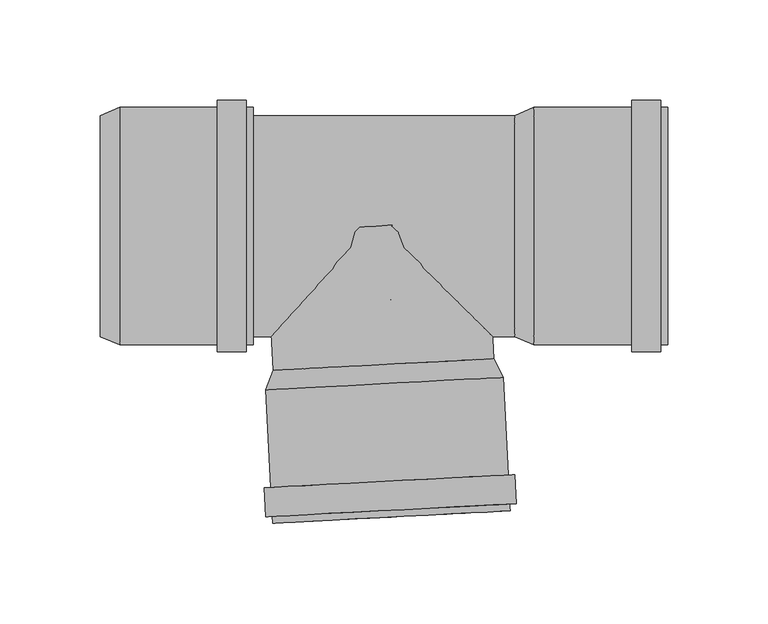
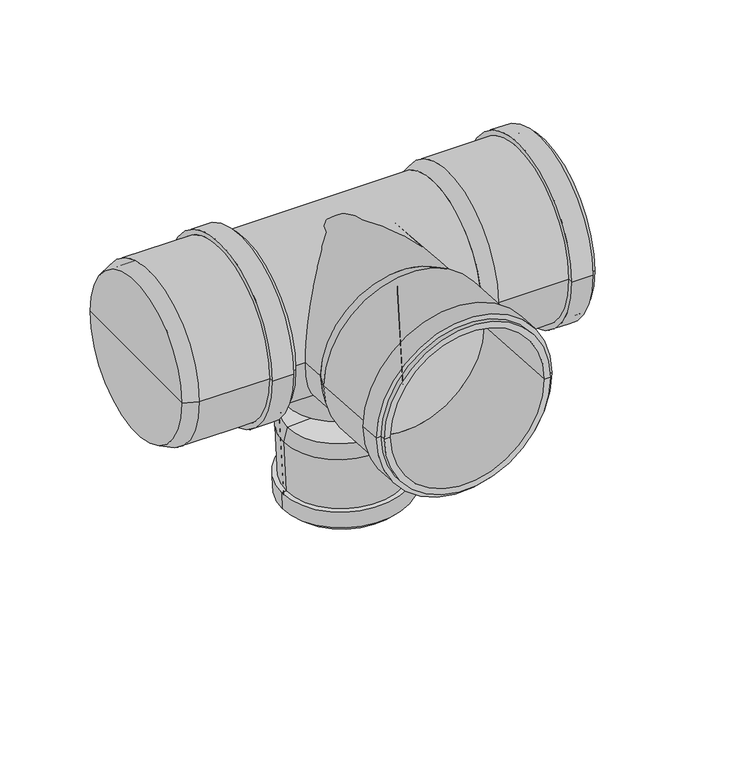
"""IFC4 building model written with IfcOpenShell, lengths in millimetres: pipe fitting geometry, pf_HTEPKp : pf_HTEPKp."""

from ifc_helpers import new_model, si_unit, point, frame, origin, origin_2d, place, context, project, spatial, polyline, circle_curve, trimmed, segment, composite_curve, outline, extrude, source, transform, mapped, element, save
from ifc_brep_helpers import plane_surface, cylinder_surface, revolved_surface, advanced_brep


def pipe_fitting_3d81adcc(model_context):
    return source(origin(), model_context, "Body", "SolidModel", [
        advanced_brep(
        [(-32.9712929, 0.0, -87.3948522), (41.9259223, 0.0, -83.4696554), (45.5188654, 0.0, -92.7943946), (-35.5698528, 0.0, -97.0440742), (4.4773147, 0.0, -85.4322538), (-32.8745511, 0.0, -148.4734952), (48.2141671, 0.0, -144.2238156), (45.1184156, 0.0, -144.3860571), (-29.7787995, 0.0, -148.3112538), (-33.0524933, 0.0, -145.0781548), (48.0362249, 0.0, -140.8284752), (-36.4478337, 0.0, -145.2560971), (51.4315653, 0.0, -140.6505329), (-37.0549308, 0.0, -133.6719945), (50.8244682, 0.0, -129.0664303), (-33.6595904, 0.0, -133.4940522), (47.4291278, 0.0, -129.2443726), (-32.4741013, 0.0, -96.8818327), (42.4231138, 0.0, -92.956636), (4.9745063, 0.0, -94.9192344)],
        [
            (0, 1, circle_curve(frame((4.4773147, 0.0, -85.4322538), z_axis=(0.05233595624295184, 0.0, -0.9986295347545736), x_axis=(0.9986295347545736, 0.0, 0.05233595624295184)), 37.5)),
            (1, 2),
            (2, 3, circle_curve(frame((4.9745063, 0.0, -94.9192344), z_axis=(-0.05233595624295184, 0.0, 0.9986295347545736), x_axis=(0.9986295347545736, 0.0, 0.05233595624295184)), 40.6)),
            (3, 0),
            (1, 0, circle_curve(frame((4.4773147, 0.0, -85.4322538), z_axis=(0.05233595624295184, 0.0, -0.9986295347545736), x_axis=(0.9986295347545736, 0.0, 0.05233595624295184)), 37.5)),
            (3, 2, circle_curve(frame((4.9745063, 0.0, -94.9192344), z_axis=(-0.05233595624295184, 0.0, 0.9986295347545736), x_axis=(0.9986295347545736, 0.0, 0.05233595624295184)), 40.6)),
            (4, 1),
            (0, 4),
            (5, 6, circle_curve(frame((7.669808, 0.0, -146.3486554), z_axis=(0.05233595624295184, 0.0, -0.9986295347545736), x_axis=(0.9986295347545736, 0.0, 0.05233595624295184)), 40.6)),
            (6, 7),
            (7, 8, circle_curve(frame((7.669808, 0.0, -146.3486554), z_axis=(-0.05233595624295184, 0.0, 0.9986295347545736), x_axis=(0.9986295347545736, 0.0, 0.05233595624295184)), 37.5)),
            (8, 5),
            (6, 5, circle_curve(frame((7.669808, 0.0, -146.3486554), z_axis=(0.05233595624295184, 0.0, -0.9986295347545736), x_axis=(0.9986295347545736, 0.0, 0.05233595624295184)), 40.6)),
            (8, 7, circle_curve(frame((7.669808, 0.0, -146.3486554), z_axis=(-0.05233595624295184, 0.0, 0.9986295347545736), x_axis=(0.9986295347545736, 0.0, 0.05233595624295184)), 37.5)),
            (9, 10, circle_curve(frame((7.4918658, 0.0, -142.953315), z_axis=(0.05233595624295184, 0.0, -0.9986295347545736), x_axis=(0.9986295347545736, 0.0, 0.05233595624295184)), 40.6)),
            (10, 6),
            (5, 9),
            (10, 9, circle_curve(frame((7.4918658, 0.0, -142.953315), z_axis=(0.05233595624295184, 0.0, -0.9986295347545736), x_axis=(0.9986295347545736, 0.0, 0.05233595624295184)), 40.6)),
            (11, 12, circle_curve(frame((7.4918658, 0.0, -142.953315), z_axis=(0.05233595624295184, 0.0, -0.9986295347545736), x_axis=(0.9986295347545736, 0.0, 0.05233595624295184)), 44.0)),
            (12, 10),
            (9, 11),
            (12, 11, circle_curve(frame((7.4918658, 0.0, -142.953315), z_axis=(0.05233595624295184, 0.0, -0.9986295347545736), x_axis=(0.9986295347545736, 0.0, 0.05233595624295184)), 44.0)),
            (13, 14, circle_curve(frame((6.8847687, 0.0, -131.3692124), z_axis=(0.05233595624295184, 0.0, -0.9986295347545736), x_axis=(0.9986295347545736, 0.0, 0.05233595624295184)), 44.0)),
            (14, 12),
            (11, 13),
            (14, 13, circle_curve(frame((6.8847687, 0.0, -131.3692124), z_axis=(0.05233595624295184, 0.0, -0.9986295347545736), x_axis=(0.9986295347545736, 0.0, 0.05233595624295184)), 44.0)),
            (15, 16, circle_curve(frame((6.8847687, 0.0, -131.3692124), z_axis=(0.05233595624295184, 0.0, -0.9986295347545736), x_axis=(0.9986295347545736, 0.0, 0.05233595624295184)), 40.6)),
            (16, 14),
            (13, 15),
            (16, 15, circle_curve(frame((6.8847687, 0.0, -131.3692124), z_axis=(0.05233595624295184, 0.0, -0.9986295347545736), x_axis=(0.9986295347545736, 0.0, 0.05233595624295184)), 40.6)),
            (2, 16),
            (15, 3),
            (17, 18, circle_curve(frame((4.9745063, 0.0, -94.9192344), z_axis=(0.05233595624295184, 0.0, -0.9986295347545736), x_axis=(0.9986295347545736, 0.0, 0.05233595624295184)), 37.5)),
            (18, 19),
            (19, 17),
            (18, 17, circle_curve(frame((4.9745063, 0.0, -94.9192344), z_axis=(0.05233595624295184, 0.0, -0.9986295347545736), x_axis=(0.9986295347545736, 0.0, 0.05233595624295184)), 37.5)),
            (7, 18),
            (17, 8),
        ],
        [
            revolved_surface(polyline([(45.5188654, 0.0, -92.7943946), (41.9259223, 0.0, -83.4696554)]), (4.4773147, 0.0, -85.4322538), (-0.05233595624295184, 0.0, 0.9986295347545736)),
            plane_surface(frame((4.4773147, 0.0, -85.4322538), z_axis=(-0.05233595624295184, 0.0, 0.9986295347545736), x_axis=(0.9986295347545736, 0.0, 0.05233595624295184))),
            plane_surface(frame((7.669808, 0.0, -146.3486554), z_axis=(0.05233595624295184, 0.0, -0.9986295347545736), x_axis=(0.9986295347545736, 0.0, 0.05233595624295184))),
            cylinder_surface(frame((4.4773147, 0.0, -85.4322538), z_axis=(-0.05233595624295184, 0.0, 0.9986295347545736), x_axis=(0.9986295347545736, 0.0, 0.05233595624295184)), 40.6),
            plane_surface(frame((7.4918658, 0.0, -142.953315), z_axis=(0.05233595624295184, 0.0, -0.9986295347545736), x_axis=(0.9986295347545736, 0.0, 0.05233595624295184))),
            cylinder_surface(frame((4.4773147, 0.0, -85.4322538), z_axis=(-0.05233595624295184, 0.0, 0.9986295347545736), x_axis=(0.9986295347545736, 0.0, 0.05233595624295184)), 44.0),
            plane_surface(frame((6.8847687, 0.0, -131.3692124), z_axis=(-0.05233595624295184, 0.0, 0.9986295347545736), x_axis=(0.9986295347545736, 0.0, 0.05233595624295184))),
            plane_surface(frame((4.9745063, 0.0, -94.9192344), z_axis=(0.05233595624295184, 0.0, -0.9986295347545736), x_axis=(0.9986295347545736, 0.0, 0.05233595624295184))),
            revolved_surface(polyline([(42.42311383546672, 0.0, -92.9566359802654), (45.11841558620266, 0.0, -144.3860571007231)]), (4.4773147, 0.0, -85.4322538), (-0.05233595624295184, 0.0, 0.9986295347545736)),
        ],
        [
            (0, [[1, 2, 3, 4]]),
            (0, [[5, -4, 6, -2]]),
            (1, [[7, -1, 8]]),
            (1, [[-8, -5, -7]]),
            (2, [[9, 10, 11, 12]]),
            (2, [[13, -12, 14, -10]]),
            (3, [[15, 16, -9, 17]]),
            (3, [[18, -17, -13, -16]]),
            (4, [[19, 20, -15, 21]]),
            (4, [[22, -21, -18, -20]]),
            (5, [[23, 24, -19, 25]]),
            (5, [[26, -25, -22, -24]]),
            (6, [[27, 28, -23, 29]]),
            (6, [[30, -29, -26, -28]]),
            (3, [[-3, 31, -27, 32]]),
            (3, [[-6, -32, -30, -31]]),
            (7, [[33, 34, 35]]),
            (7, [[36, -35, -34]]),
            (8, [[-11, 37, -33, 38]]),
            (8, [[-14, -38, -36, -37]]),
        ],
    ),
        advanced_brep(
        [(-51.3134434, -71.7839155, 0.0), (58.5358054, -66.0269603, 0.0), (63.1273781, -75.2993635, 0.0), (-54.9106329, -81.4854735, 0.0), (3.611181, -68.9054379, 0.0), (-51.4302918, -147.8943376, 0.0), (66.6077192, -141.7082275, 0.0), (62.5133381, -141.9228049, 0.0), (-47.3359108, -147.6797601, 0.0), (-51.6082341, -144.4989971, 0.0), (66.4297769, -138.3128871, 0.0), (-55.0035745, -144.6769394, 0.0), (69.8251173, -138.1349449, 0.0), (-55.7624459, -130.1968111, 0.0), (69.066246, -123.6548166, 0.0), (-52.3671055, -130.0188689, 0.0), (65.6709055, -123.8327589, 0.0), (-50.8162518, -81.2708961, 0.0), (59.032997, -75.5139409, 0.0), (4.1083726, -78.3924185, 0.0)],
        [
            (0, 1, circle_curve(frame((3.611181, -68.9054379, 0.0), z_axis=(0.052335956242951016, -0.9986295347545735, 0.0), x_axis=(0.9986295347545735, 0.052335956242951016, 0.0)), 55.0)),
            (1, 2),
            (2, 3, circle_curve(frame((4.1083726, -78.3924185, 0.0), z_axis=(-0.052335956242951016, 0.9986295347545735, 0.0), x_axis=(0.9986295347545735, 0.052335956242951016, 0.0)), 59.1)),
            (3, 0),
            (1, 0, circle_curve(frame((3.611181, -68.9054379, 0.0), z_axis=(0.052335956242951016, -0.9986295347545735, 0.0), x_axis=(0.9986295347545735, 0.052335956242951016, 0.0)), 55.0)),
            (3, 2, circle_curve(frame((4.1083726, -78.3924185, 0.0), z_axis=(-0.052335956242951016, 0.9986295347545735, 0.0), x_axis=(0.9986295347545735, 0.052335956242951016, 0.0)), 59.1)),
            (4, 1),
            (0, 4),
            (5, 6, circle_curve(frame((7.5887137, -144.8012825, 0.0), z_axis=(0.052335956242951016, -0.9986295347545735, 0.0), x_axis=(0.9986295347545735, 0.052335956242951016, 0.0)), 59.1)),
            (6, 7),
            (7, 8, circle_curve(frame((7.5887137, -144.8012825, 0.0), z_axis=(-0.052335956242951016, 0.9986295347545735, 0.0), x_axis=(0.9986295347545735, 0.052335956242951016, 0.0)), 55.0)),
            (8, 5),
            (6, 5, circle_curve(frame((7.5887137, -144.8012825, 0.0), z_axis=(0.052335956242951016, -0.9986295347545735, 0.0), x_axis=(0.9986295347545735, 0.052335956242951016, 0.0)), 59.1)),
            (8, 7, circle_curve(frame((7.5887137, -144.8012825, 0.0), z_axis=(-0.052335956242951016, 0.9986295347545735, 0.0), x_axis=(0.9986295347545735, 0.052335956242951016, 0.0)), 55.0)),
            (9, 10, circle_curve(frame((7.4107714, -141.4059421, 0.0), z_axis=(0.052335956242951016, -0.9986295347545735, 0.0), x_axis=(0.9986295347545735, 0.052335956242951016, 0.0)), 59.1)),
            (10, 6),
            (5, 9),
            (10, 9, circle_curve(frame((7.4107714, -141.4059421, 0.0), z_axis=(0.052335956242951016, -0.9986295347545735, 0.0), x_axis=(0.9986295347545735, 0.052335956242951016, 0.0)), 59.1)),
            (11, 12, circle_curve(frame((7.4107714, -141.4059421, 0.0), z_axis=(0.052335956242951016, -0.9986295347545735, 0.0), x_axis=(0.9986295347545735, 0.052335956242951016, 0.0)), 62.5)),
            (12, 10),
            (9, 11),
            (12, 11, circle_curve(frame((7.4107714, -141.4059421, 0.0), z_axis=(0.052335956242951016, -0.9986295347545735, 0.0), x_axis=(0.9986295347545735, 0.052335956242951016, 0.0)), 62.5)),
            (13, 14, circle_curve(frame((6.6519, -126.9258139, 0.0), z_axis=(0.052335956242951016, -0.9986295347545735, 0.0), x_axis=(0.9986295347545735, 0.052335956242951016, 0.0)), 62.5)),
            (14, 12),
            (11, 13),
            (14, 13, circle_curve(frame((6.6519, -126.9258139, 0.0), z_axis=(0.052335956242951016, -0.9986295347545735, 0.0), x_axis=(0.9986295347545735, 0.052335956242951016, 0.0)), 62.5)),
            (15, 16, circle_curve(frame((6.6519, -126.9258139, 0.0), z_axis=(0.052335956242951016, -0.9986295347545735, 0.0), x_axis=(0.9986295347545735, 0.052335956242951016, 0.0)), 59.1)),
            (16, 14),
            (13, 15),
            (16, 15, circle_curve(frame((6.6519, -126.9258139, 0.0), z_axis=(0.052335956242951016, -0.9986295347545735, 0.0), x_axis=(0.9986295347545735, 0.052335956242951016, 0.0)), 59.1)),
            (2, 16),
            (15, 3),
            (17, 18, circle_curve(frame((4.1083726, -78.3924185, 0.0), z_axis=(0.052335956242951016, -0.9986295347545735, 0.0), x_axis=(0.9986295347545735, 0.052335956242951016, 0.0)), 55.0)),
            (18, 19),
            (19, 17),
            (18, 17, circle_curve(frame((4.1083726, -78.3924185, 0.0), z_axis=(0.052335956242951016, -0.9986295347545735, 0.0), x_axis=(0.9986295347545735, 0.052335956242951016, 0.0)), 55.0)),
            (7, 18),
            (17, 8),
        ],
        [
            revolved_surface(polyline([(63.1273781, -75.2993635, 0.0), (58.5358054, -66.0269603, 0.0)]), (3.611181, -68.9054379, 0.0), (-0.052335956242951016, 0.9986295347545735, 0.0)),
            plane_surface(frame((3.611181, -68.9054379, 0.0), z_axis=(-0.052335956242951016, 0.9986295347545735, 0.0), x_axis=(0.9986295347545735, 0.052335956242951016, 0.0))),
            plane_surface(frame((7.5887137, -144.8012825, 0.0), z_axis=(0.052335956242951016, -0.9986295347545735, 0.0), x_axis=(0.9986295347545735, 0.052335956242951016, 0.0))),
            cylinder_surface(frame((3.611181, -68.9054379, 0.0), z_axis=(-0.052335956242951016, 0.9986295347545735, 0.0), x_axis=(0.9986295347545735, 0.052335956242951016, 0.0)), 59.1),
            plane_surface(frame((7.4107714, -141.4059421, 0.0), z_axis=(0.052335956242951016, -0.9986295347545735, 0.0), x_axis=(0.9986295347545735, 0.052335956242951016, 0.0))),
            cylinder_surface(frame((3.611181, -68.9054379, 0.0), z_axis=(-0.052335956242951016, 0.9986295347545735, 0.0), x_axis=(0.9986295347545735, 0.052335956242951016, 0.0)), 62.5),
            plane_surface(frame((6.6519, -126.9258139, 0.0), z_axis=(-0.052335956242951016, 0.9986295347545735, 0.0), x_axis=(0.9986295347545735, 0.052335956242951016, 0.0))),
            plane_surface(frame((4.1083726, -78.3924185, 0.0), z_axis=(0.052335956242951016, -0.9986295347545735, 0.0), x_axis=(0.9986295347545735, 0.052335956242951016, 0.0))),
            revolved_surface(polyline([(59.03299699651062, -75.51394090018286, 0.0), (62.51333808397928, -141.92280491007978, 0.0)]), (3.611181, -68.9054379, 0.0), (-0.052335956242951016, 0.9986295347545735, 0.0)),
        ],
        [
            (0, [[1, 2, 3, 4]]),
            (0, [[5, -4, 6, -2]]),
            (1, [[7, -1, 8]]),
            (1, [[-8, -5, -7]]),
            (2, [[9, 10, 11, 12]]),
            (2, [[13, -12, 14, -10]]),
            (3, [[15, 16, -9, 17]]),
            (3, [[18, -17, -13, -16]]),
            (4, [[19, 20, -15, 21]]),
            (4, [[22, -21, -18, -20]]),
            (5, [[23, 24, -19, 25]]),
            (5, [[26, -25, -22, -24]]),
            (6, [[27, 28, -23, 29]]),
            (6, [[30, -29, -26, -28]]),
            (3, [[-3, 31, -27, 32]]),
            (3, [[-6, -32, -30, -31]]),
            (7, [[33, 34, 35]]),
            (7, [[36, -35, -34]]),
            (8, [[-11, 37, -33, 38]]),
            (8, [[-14, -38, -36, -37]]),
        ],
    ),
        advanced_brep(
        [(69.0, -55.0, 0.0), (69.0, 55.0, 0.0), (78.5, 59.1, 0.0), (78.5, -59.1, 0.0), (69.0, 0.0, 0.0), (145.0, -59.1, 0.0), (145.0, 59.1, 0.0), (145.0, 55.0, 0.0), (145.0, -55.0, 0.0), (141.6, -59.1, 0.0), (141.6, 59.1, 0.0), (141.6, -62.5, 0.0), (141.6, 62.5, 0.0), (127.1, -62.5, 0.0), (127.1, 62.5, 0.0), (127.1, -59.1, 0.0), (127.1, 59.1, 0.0), (78.5, -55.0, 0.0), (78.5, 55.0, 0.0), (78.5, 0.0, 0.0)],
        [
            (0, 1, circle_curve(frame((69.0, 0.0, 0.0), z_axis=(1.0, 0.0, 0.0), x_axis=(0.0, 1.0, 0.0)), 55.0)),
            (1, 2),
            (2, 3, circle_curve(frame((78.5, 0.0, 0.0), z_axis=(-1.0, 0.0, 0.0), x_axis=(0.0, 1.0, 0.0)), 59.1)),
            (3, 0),
            (1, 0, circle_curve(frame((69.0, 0.0, 0.0), z_axis=(1.0, 0.0, 0.0), x_axis=(0.0, 1.0, 0.0)), 55.0)),
            (3, 2, circle_curve(frame((78.5, 0.0, 0.0), z_axis=(-1.0, 0.0, 0.0), x_axis=(0.0, 1.0, 0.0)), 59.1)),
            (4, 1),
            (0, 4),
            (5, 6, circle_curve(frame((145.0, 0.0, 0.0), z_axis=(1.0, 0.0, 0.0), x_axis=(0.0, 1.0, 0.0)), 59.1)),
            (6, 7),
            (7, 8, circle_curve(frame((145.0, 0.0, 0.0), z_axis=(-1.0, 0.0, 0.0), x_axis=(0.0, 1.0, 0.0)), 55.0)),
            (8, 5),
            (6, 5, circle_curve(frame((145.0, 0.0, 0.0), z_axis=(1.0, 0.0, 0.0), x_axis=(0.0, 1.0, 0.0)), 59.1)),
            (8, 7, circle_curve(frame((145.0, 0.0, 0.0), z_axis=(-1.0, 0.0, 0.0), x_axis=(0.0, 1.0, 0.0)), 55.0)),
            (9, 10, circle_curve(frame((141.6, 0.0, 0.0), z_axis=(1.0, 0.0, 0.0), x_axis=(0.0, 1.0, 0.0)), 59.1)),
            (10, 6),
            (5, 9),
            (10, 9, circle_curve(frame((141.6, 0.0, 0.0), z_axis=(1.0, 0.0, 0.0), x_axis=(0.0, 1.0, 0.0)), 59.1)),
            (11, 12, circle_curve(frame((141.6, 0.0, 0.0), z_axis=(1.0, 0.0, 0.0), x_axis=(0.0, 1.0, 0.0)), 62.5)),
            (12, 10),
            (9, 11),
            (12, 11, circle_curve(frame((141.6, 0.0, 0.0), z_axis=(1.0, 0.0, 0.0), x_axis=(0.0, 1.0, 0.0)), 62.5)),
            (13, 14, circle_curve(frame((127.1, 0.0, 0.0), z_axis=(1.0, 0.0, 0.0), x_axis=(0.0, 1.0, 0.0)), 62.5)),
            (14, 12),
            (11, 13),
            (14, 13, circle_curve(frame((127.1, 0.0, 0.0), z_axis=(1.0, 0.0, 0.0), x_axis=(0.0, 1.0, 0.0)), 62.5)),
            (15, 16, circle_curve(frame((127.1, 0.0, 0.0), z_axis=(1.0, 0.0, 0.0), x_axis=(0.0, 1.0, 0.0)), 59.1)),
            (16, 14),
            (13, 15),
            (16, 15, circle_curve(frame((127.1, 0.0, 0.0), z_axis=(1.0, 0.0, 0.0), x_axis=(0.0, 1.0, 0.0)), 59.1)),
            (2, 16),
            (15, 3),
            (17, 18, circle_curve(frame((78.5, 0.0, 0.0), z_axis=(1.0, 0.0, 0.0), x_axis=(0.0, 1.0, 0.0)), 55.0)),
            (18, 19),
            (19, 17),
            (18, 17, circle_curve(frame((78.5, 0.0, 0.0), z_axis=(1.0, 0.0, 0.0), x_axis=(0.0, 1.0, 0.0)), 55.0)),
            (7, 18),
            (17, 8),
        ],
        [
            revolved_surface(polyline([(78.5, 59.1, 0.0), (69.0, 55.0, 0.0)]), (69.0, 0.0, 0.0), (-1.0, 0.0, 0.0)),
            plane_surface(frame((69.0, 0.0, 0.0), z_axis=(-1.0, 0.0, 0.0), x_axis=(0.0, 1.0, 0.0))),
            plane_surface(frame((145.0, 0.0, 0.0), z_axis=(1.0, 0.0, 0.0), x_axis=(0.0, 1.0, 0.0))),
            cylinder_surface(frame((69.0, 0.0, 0.0), z_axis=(-1.0, 0.0, 0.0), x_axis=(0.0, 1.0, 0.0)), 59.1),
            plane_surface(frame((141.6, 0.0, 0.0), z_axis=(1.0, 0.0, 0.0), x_axis=(0.0, 1.0, 0.0))),
            cylinder_surface(frame((69.0, 0.0, 0.0), z_axis=(-1.0, 0.0, 0.0), x_axis=(0.0, 1.0, 0.0)), 62.5),
            plane_surface(frame((127.1, 0.0, 0.0), z_axis=(-1.0, 0.0, 0.0), x_axis=(0.0, 1.0, 0.0))),
            plane_surface(frame((78.5, 0.0, 0.0), z_axis=(1.0, 0.0, 0.0), x_axis=(0.0, 1.0, 0.0))),
            revolved_surface(polyline([(78.5, 55.0, 0.0), (145.0, 55.0, 0.0)]), (69.0, 0.0, 0.0), (-1.0, 0.0, 0.0)),
        ],
        [
            (0, [[1, 2, 3, 4]]),
            (0, [[5, -4, 6, -2]]),
            (1, [[7, -1, 8]]),
            (1, [[-8, -5, -7]]),
            (2, [[9, 10, 11, 12]]),
            (2, [[13, -12, 14, -10]]),
            (3, [[15, 16, -9, 17]]),
            (3, [[18, -17, -13, -16]]),
            (4, [[19, 20, -15, 21]]),
            (4, [[22, -21, -18, -20]]),
            (5, [[23, 24, -19, 25]]),
            (5, [[26, -25, -22, -24]]),
            (6, [[27, 28, -23, 29]]),
            (6, [[30, -29, -26, -28]]),
            (3, [[-3, 31, -27, 32]]),
            (3, [[-6, -32, -30, -31]]),
            (7, [[33, 34, 35]]),
            (7, [[36, -35, -34]]),
            (8, [[-11, 37, -33, 38]]),
            (8, [[-14, -38, -36, -37]]),
        ],
    ),
        advanced_brep(
        [(-137.2, -55.0, 0.0), (-137.2, 55.0, 0.0), (-127.7, 59.1, 0.0), (-127.7, -59.1, 0.0), (-137.2, 0.0, 0.0), (-61.2, -59.1, 0.0), (-61.2, 59.1, 0.0), (-61.2, 55.0, 0.0), (-61.2, -55.0, 0.0), (-64.6, -59.1, 0.0), (-64.6, 59.1, 0.0), (-64.6, -62.5, 0.0), (-64.6, 62.5, 0.0), (-79.1, -62.5, 0.0), (-79.1, 62.5, 0.0), (-79.1, -59.1, 0.0), (-79.1, 59.1, 0.0), (-127.7, -55.0, 0.0), (-127.7, 55.0, 0.0), (-127.7, 0.0, 0.0)],
        [
            (0, 1, circle_curve(frame((-137.2, 0.0, 0.0), z_axis=(1.0, 0.0, 0.0), x_axis=(0.0, 1.0, 0.0)), 55.0)),
            (1, 2),
            (2, 3, circle_curve(frame((-127.7, 0.0, 0.0), z_axis=(-1.0, 0.0, 0.0), x_axis=(0.0, 1.0, 0.0)), 59.1)),
            (3, 0),
            (1, 0, circle_curve(frame((-137.2, 0.0, 0.0), z_axis=(1.0, 0.0, 0.0), x_axis=(0.0, 1.0, 0.0)), 55.0)),
            (3, 2, circle_curve(frame((-127.7, 0.0, 0.0), z_axis=(-1.0, 0.0, 0.0), x_axis=(0.0, 1.0, 0.0)), 59.1)),
            (4, 1),
            (0, 4),
            (5, 6, circle_curve(frame((-61.2, 0.0, 0.0), z_axis=(1.0, 0.0, 0.0), x_axis=(0.0, 1.0, 0.0)), 59.1)),
            (6, 7),
            (7, 8, circle_curve(frame((-61.2, 0.0, 0.0), z_axis=(-1.0, 0.0, 0.0), x_axis=(0.0, 1.0, 0.0)), 55.0)),
            (8, 5),
            (6, 5, circle_curve(frame((-61.2, 0.0, 0.0), z_axis=(1.0, 0.0, 0.0), x_axis=(0.0, 1.0, 0.0)), 59.1)),
            (8, 7, circle_curve(frame((-61.2, 0.0, 0.0), z_axis=(-1.0, 0.0, 0.0), x_axis=(0.0, 1.0, 0.0)), 55.0)),
            (9, 10, circle_curve(frame((-64.6, 0.0, 0.0), z_axis=(1.0, 0.0, 0.0), x_axis=(0.0, 1.0, 0.0)), 59.1)),
            (10, 6),
            (5, 9),
            (10, 9, circle_curve(frame((-64.6, 0.0, 0.0), z_axis=(1.0, 0.0, 0.0), x_axis=(0.0, 1.0, 0.0)), 59.1)),
            (11, 12, circle_curve(frame((-64.6, 0.0, 0.0), z_axis=(1.0, 0.0, 0.0), x_axis=(0.0, 1.0, 0.0)), 62.5)),
            (12, 10),
            (9, 11),
            (12, 11, circle_curve(frame((-64.6, 0.0, 0.0), z_axis=(1.0, 0.0, 0.0), x_axis=(0.0, 1.0, 0.0)), 62.5)),
            (13, 14, circle_curve(frame((-79.1, 0.0, 0.0), z_axis=(1.0, 0.0, 0.0), x_axis=(0.0, 1.0, 0.0)), 62.5)),
            (14, 12),
            (11, 13),
            (14, 13, circle_curve(frame((-79.1, 0.0, 0.0), z_axis=(1.0, 0.0, 0.0), x_axis=(0.0, 1.0, 0.0)), 62.5)),
            (15, 16, circle_curve(frame((-79.1, 0.0, 0.0), z_axis=(1.0, 0.0, 0.0), x_axis=(0.0, 1.0, 0.0)), 59.1)),
            (16, 14),
            (13, 15),
            (16, 15, circle_curve(frame((-79.1, 0.0, 0.0), z_axis=(1.0, 0.0, 0.0), x_axis=(0.0, 1.0, 0.0)), 59.1)),
            (2, 16),
            (15, 3),
            (17, 18, circle_curve(frame((-127.7, 0.0, 0.0), z_axis=(1.0, 0.0, 0.0), x_axis=(0.0, 1.0, 0.0)), 55.0)),
            (18, 19),
            (19, 17),
            (18, 17, circle_curve(frame((-127.7, 0.0, 0.0), z_axis=(1.0, 0.0, 0.0), x_axis=(0.0, 1.0, 0.0)), 55.0)),
            (7, 18),
            (17, 8),
        ],
        [
            revolved_surface(polyline([(-127.7, 59.1, 0.0), (-137.2, 55.0, 0.0)]), (-137.2, 0.0, 0.0), (-1.0, 0.0, 0.0)),
            plane_surface(frame((-137.2, 0.0, 0.0), z_axis=(-1.0, 0.0, 0.0), x_axis=(0.0, 1.0, 0.0))),
            plane_surface(frame((-61.2, 0.0, 0.0), z_axis=(1.0, 0.0, 0.0), x_axis=(0.0, 1.0, 0.0))),
            cylinder_surface(frame((-137.2, 0.0, 0.0), z_axis=(-1.0, 0.0, 0.0), x_axis=(0.0, 1.0, 0.0)), 59.1),
            plane_surface(frame((-64.6, 0.0, 0.0), z_axis=(1.0, 0.0, 0.0), x_axis=(0.0, 1.0, 0.0))),
            cylinder_surface(frame((-137.2, 0.0, 0.0), z_axis=(-1.0, 0.0, 0.0), x_axis=(0.0, 1.0, 0.0)), 62.5),
            plane_surface(frame((-79.1, 0.0, 0.0), z_axis=(-1.0, 0.0, 0.0), x_axis=(0.0, 1.0, 0.0))),
            plane_surface(frame((-127.7, 0.0, 0.0), z_axis=(1.0, 0.0, 0.0), x_axis=(0.0, 1.0, 0.0))),
            revolved_surface(polyline([(-127.7, 55.0, 0.0), (-61.2, 55.0, 0.0)]), (-137.2, 0.0, 0.0), (-1.0, 0.0, 0.0)),
        ],
        [
            (0, [[1, 2, 3, 4]]),
            (0, [[5, -4, 6, -2]]),
            (1, [[7, -1, 8]]),
            (1, [[-8, -5, -7]]),
            (2, [[9, 10, 11, 12]]),
            (2, [[13, -12, 14, -10]]),
            (3, [[15, 16, -9, 17]]),
            (3, [[18, -17, -13, -16]]),
            (4, [[19, 20, -15, 21]]),
            (4, [[22, -21, -18, -20]]),
            (5, [[23, 24, -19, 25]]),
            (5, [[26, -25, -22, -24]]),
            (6, [[27, 28, -23, 29]]),
            (6, [[30, -29, -26, -28]]),
            (3, [[-3, 31, -27, 32]]),
            (3, [[-6, -32, -30, -31]]),
            (7, [[33, 34, 35]]),
            (7, [[36, -35, -34]]),
            (8, [[-11, 37, -33, 38]]),
            (8, [[-14, -38, -36, -37]]),
        ],
    ),
        extrude(outline(composite_curve([segment(trimmed(circle_curve(origin_2d(), 37.5), [point((0.0, -37.5))], [point((0.0, 37.4999999))], False, "CARTESIAN"), True, "CONTINUOUS"), segment(trimmed(circle_curve(origin_2d(), 37.5), [point((0.0, 37.4999999))], [point((0.0, -37.5))], False, "CARTESIAN"), True, "CONTINUOUS")], self_intersect=False)), frame((3.611181, 0.0, -68.9054379), z_axis=(-0.052335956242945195, 0.0, 0.9986295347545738), x_axis=(0.0, -1.0, 0.0)), (0.0, 0.0, 1.0), 69.0),
        extrude(outline(composite_curve([segment(trimmed(circle_curve(origin_2d(), 55.0), [point((0.0, -55.0))], [point((0.0, 55.0))], False, "CARTESIAN"), True, "CONTINUOUS"), segment(trimmed(circle_curve(origin_2d(), 55.0), [point((0.0, 55.0))], [point((0.0, -55.0))], False, "CARTESIAN"), True, "CONTINUOUS")], self_intersect=False)), frame((3.611181, -68.9054379, 0.0), z_axis=(-0.052335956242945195, 0.9986295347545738, 0.0), x_axis=(0.0, 0.0, 1.0)), (0.0, 0.0, 1.0), 69.0),
        extrude(outline(composite_curve([segment(trimmed(circle_curve(origin_2d(), 55.0), [point((-55.0, 0.0))], [point((55.0, 0.0))], False, "CARTESIAN"), True, "CONTINUOUS"), segment(trimmed(circle_curve(origin_2d(), 55.0), [point((55.0, 0.0))], [point((-55.0, 0.0))], False, "CARTESIAN"), True, "CONTINUOUS")], self_intersect=False)), frame((-61.2, 0.0, 0.0), z_axis=(1.0, 0.0, 0.0), x_axis=(0.0, 1.0, 0.0)), (0.0, 0.0, 1.0), 130.2),
    ])


if __name__ == "__main__":
    model = new_model("IFC4")
    model_context = context("Model", 3, world=origin())
    ifc_project = project(units=[si_unit("LENGTHUNIT", "METRE", prefix="MILLI")], contexts=[model_context])
    site = spatial("IfcSite", under=ifc_project)
    building = spatial("IfcBuilding", under=site)
    placement = place(None, origin())
    pipe_fitting_shape = pipe_fitting_3d81adcc(model_context)
    element("IfcPipeFitting", 1, ObjectType="pf_HTEPKp : pf_HTEPKp", at=placement, inside=building, context=model_context, shape_type="MappedRepresentation", body=[
        mapped(pipe_fitting_shape, transform((0.0, 0.0, 0.0), x_axis=(1.0, 0.0, 0.0), y_axis=(0.0, 1.0, 0.0), z_axis=(0.0, 0.0, 1.0))),
    ])
    save(model, "model.ifc")
